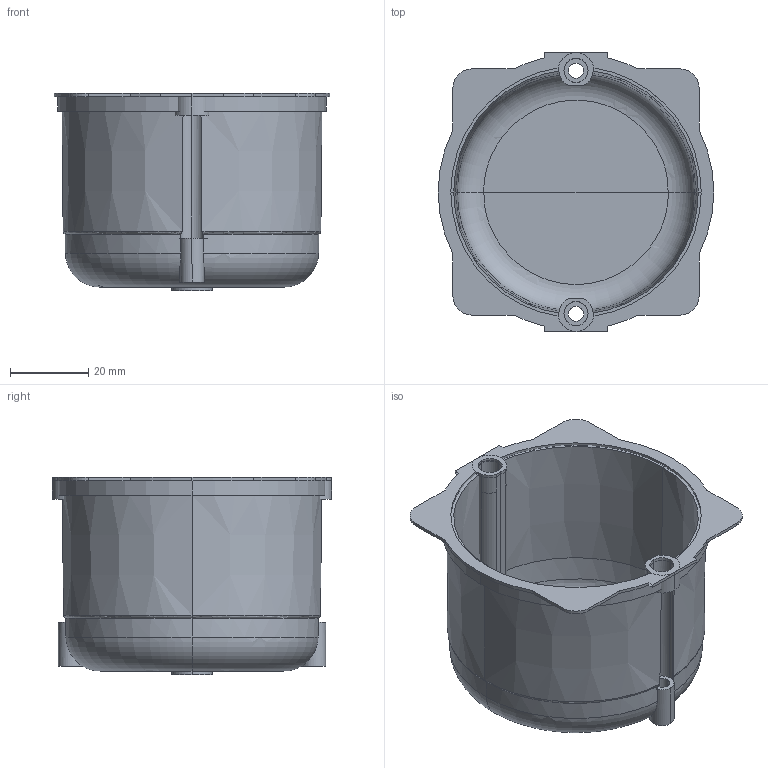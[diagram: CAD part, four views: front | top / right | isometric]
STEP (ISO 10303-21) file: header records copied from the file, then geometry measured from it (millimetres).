
FILE_DESCRIPTION(/* description */ (''),/* implementation_level */ '2;1');
FILE_NAME(/* name */ 'C:\Users\francosartori\Documents\Modelos\01_Digitalizados\0_DART\03_Publicación\70276 - Vista 3D - Export.stp',/* time_stamp */ '2020-06-23T14:03:36+02:00',/* author */ ('FrancoSartori'),/* organization */ (''),/* preprocessor_version */ 'ST-DEVELOPER v18.1',/* originating_system */ 'AutoCAD Mechanical',/* authorisation */ '');
FILE_SCHEMA (('AUTOMOTIVE_DESIGN { 1 0 10303 214 3 1 1 }'));
Length unit declared in the file: millimetre
Products named in the file (3): Product; FamilyGeomCombination_390147-Export; FamilyGeomCombination_390203-Export
Assembly tree (2 placements, depth 2):
  Product
    FamilyGeomCombination_390147-Export
    FamilyGeomCombination_390203-Export
Bounding box: 70.5 x 71.5 x 50.4 mm (x, y, z)
Volume: 25435.3 mm3; surface area: 30298.2 mm2
Topology: 5 solids, 6 shells, 130 faces, 370 edges, 236 vertices
Faces by surface type: cylinder 64, plane 42, cone 16, torus 8
Entity records: 5159 total; most frequent: CARTESIAN_POINT 1696, DIRECTION 720, ORIENTED_EDGE 700, EDGE_CURVE 370, AXIS2_PLACEMENT_3D 272, VERTEX_POINT 236, LINE 176, VECTOR 176
